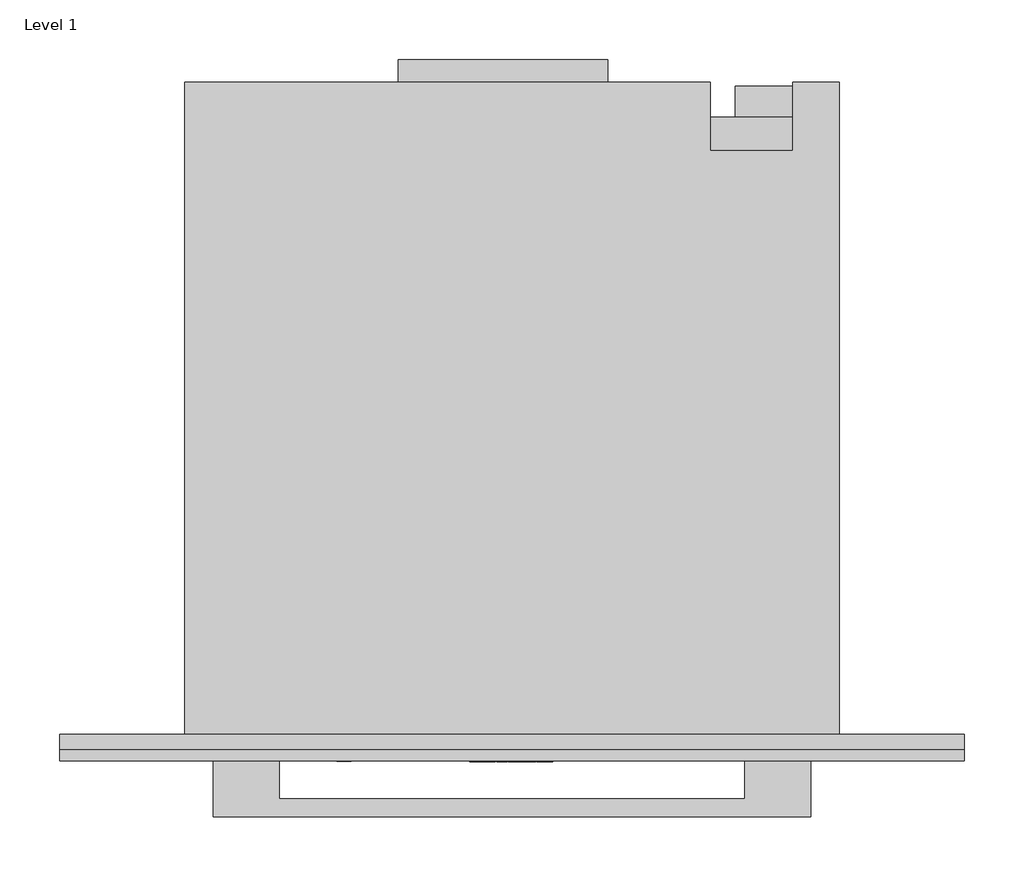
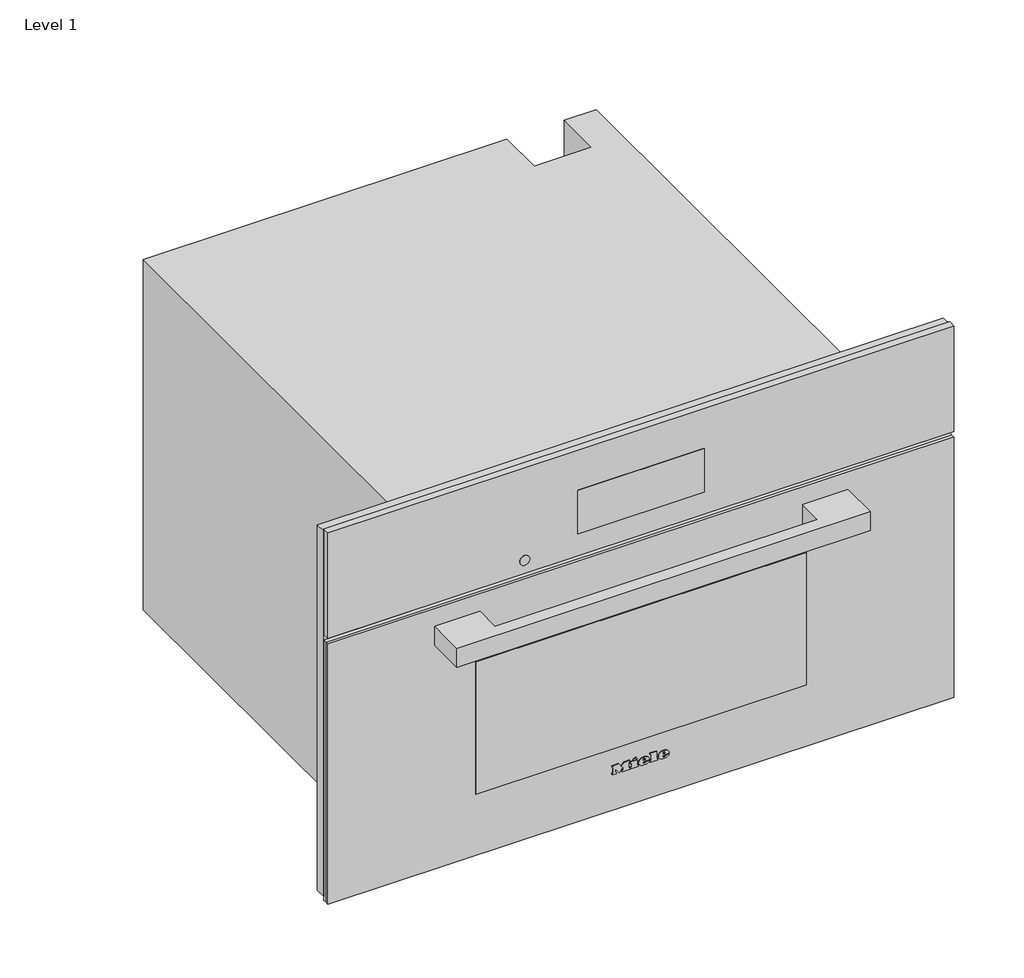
# One storey: 1 proxy.
"""IFC4 building model written with IfcOpenShell, lengths in millimetres."""

from ifc_helpers import new_model, si_unit, origin, place, context, project, spatial, transform, mapped, element, save
from components import specialty_equipment_27de7004

model = new_model("IFC4")

# Units and contexts
model_context = context("Model", 3, world=origin())
ifc_project = project(units=[si_unit("LENGTHUNIT", "METRE", prefix="MILLI")], contexts=[model_context])

# Site, building, storey
site = spatial("IfcSite", under=ifc_project)
building = spatial("IfcBuilding", under=site)
storey = spatial("IfcBuildingStorey", under=building, Name="Level 1", Elevation=0.0)

# Proxy
placement = place(None, origin())
specialty_equipment_shape = specialty_equipment_27de7004(model_context)
element("IfcBuildingElementProxy", 1, Name="11876190_USA_DGC7870_OBSW : 23787022_USA_11876190_DGC7870_OBSW", ObjectType="11876190_USA_DGC7870_OBSW : 23787022_USA_11876190_DGC7870_OBSW", at=placement, inside=storey, context=model_context, shape_type="MappedRepresentation", body=[
    mapped(specialty_equipment_shape, transform((0.0, 0.0, 0.0), x_axis=(1.0, 0.0, 0.0), y_axis=(0.0, 1.0, 0.0), z_axis=(0.0, 0.0, 1.0))),
])

save(model, "model.ifc")
